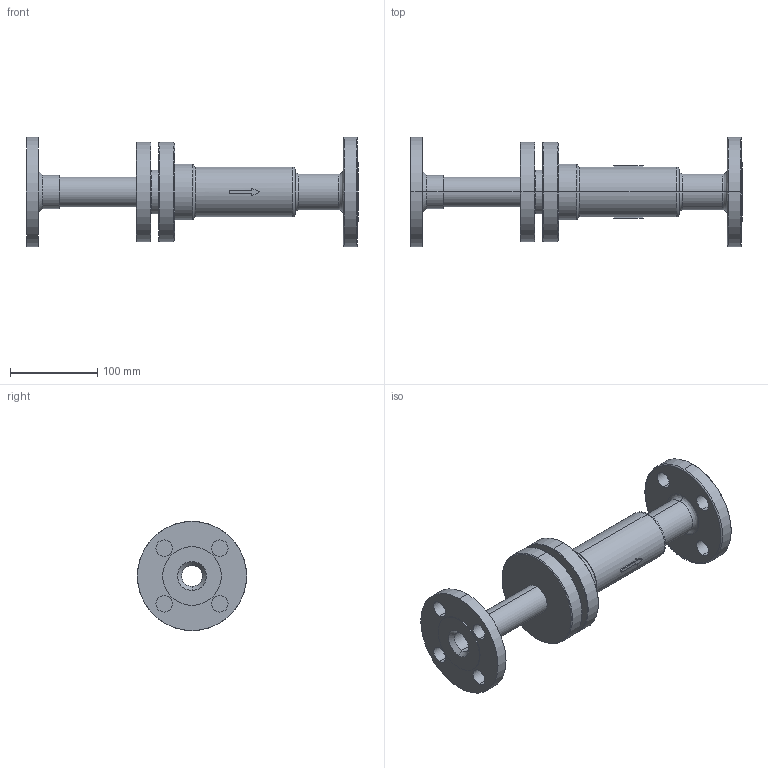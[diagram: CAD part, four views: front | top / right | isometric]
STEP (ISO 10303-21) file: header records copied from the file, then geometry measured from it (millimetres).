
FILE_DESCRIPTION( (''), '2;1');
FILE_NAME ('PC1027.9516.ES-10-100 25A_22667.stp','2025-07-30T11:30:11',(''),(''),'spGate 20.6.3 (****-****-****-****)','','');
FILE_SCHEMA (('AUTOMOTIVE_DESIGN'));
Length unit declared in the file: millimetre
Bounding box: 380 x 125 x 125 mm (x, y, z)
Volume: 1060970.4 mm3; surface area: 181239.8 mm2
Topology: 1 solids, 1 shells, 104 faces, 238 edges, 150 vertices
Faces by surface type: cylinder 42, bspline 32, plane 30
Entity records: 5275 total; most frequent: CARTESIAN_POINT 1092, ORIENTED_EDGE 476, DIRECTION 432, COLOUR_RGB 343, PRESENTATION_STYLE_ASSIGNMENT 343, STYLED_ITEM 343, EDGE_CURVE 238, DRAUGHTING_PRE_DEFINED_CURVE_FONT 238
